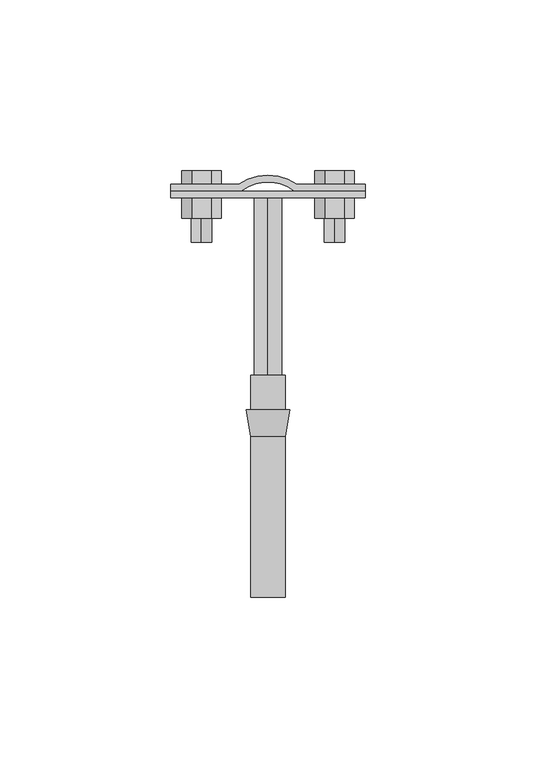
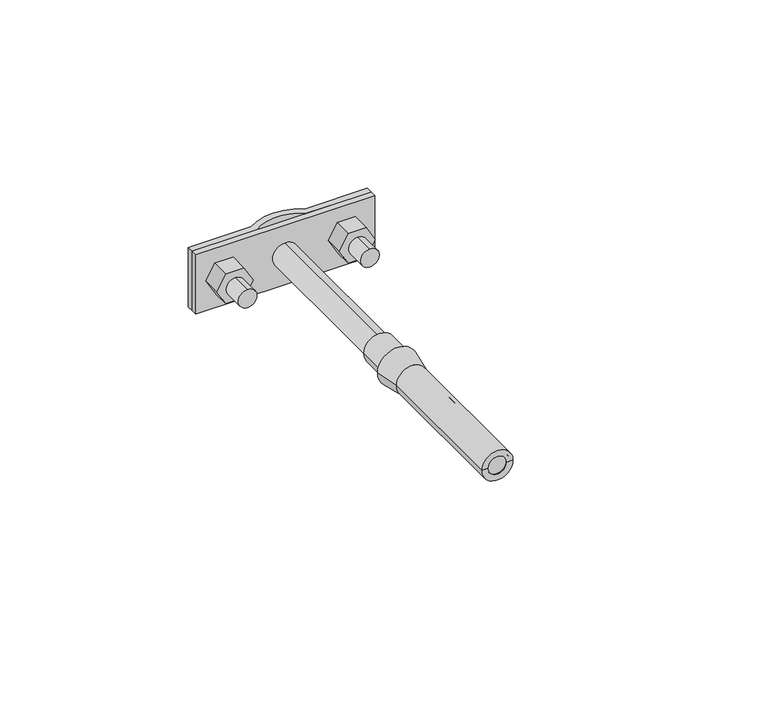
"""IFC4 building model written with IfcOpenShell, lengths in millimetres: proxy geometry, КНС_ДержательФасадный_DKC : ND2306_Горячеоцинкованная сталь_125 мм."""

from ifc_helpers import new_model, si_unit, point, frame, frame_2d, origin, origin_2d, place, context, project, spatial, polyline, circle_curve, trimmed, segment, composite_curve, outline, extrude, source, transform, mapped, element, save
from ifc_brep_helpers import plane_surface, cylinder_surface, revolved_surface, advanced_brep


def security_devices_a8bf1533(model_context):
    return source(origin(), model_context, "Body", "SolidModel", [
        advanced_brep(
        [(6.3810583, -10.0, 0.0), (-6.3810583, -10.0, 0.0), (-5.0, -10.0, 0.0), (5.0, -10.0, 0.0), (5.0, -17.8323707, 0.0), (-5.0, -17.8323707, 0.0), (5.0, -65.0, 0.0), (-5.0, -65.0, 0.0), (3.0, -65.0, 0.0), (-3.0, -65.0, 0.0), (3.0, 0.0, 0.0), (-3.0, 0.0, 0.0), (5.0, 0.0, 0.0), (-5.0, 0.0, 0.0)],
        [
            (0, 1, circle_curve(frame((0.0, -10.0, 0.0), z_axis=(0.0, 1.0, 0.0), x_axis=(-1.0, 0.0, 0.0)), 6.3810583)),
            (1, 2),
            (2, 3, circle_curve(frame((0.0, -10.0, 0.0), z_axis=(0.0, -1.0, 0.0), x_axis=(-1.0, 0.0, 0.0)), 5.0)),
            (3, 0),
            (1, 0, circle_curve(frame((0.0, -10.0, 0.0), z_axis=(0.0, 1.0, 0.0), x_axis=(-1.0, 0.0, 0.0)), 6.3810583)),
            (3, 2, circle_curve(frame((0.0, -10.0, 0.0), z_axis=(0.0, -1.0, 0.0), x_axis=(-1.0, 0.0, 0.0)), 5.0)),
            (4, 5, circle_curve(frame((0.0, -17.8323707, 0.0), z_axis=(0.0, 1.0, 0.0), x_axis=(-1.0, 0.0, 0.0)), 5.0)),
            (5, 1),
            (0, 4),
            (5, 4, circle_curve(frame((0.0, -17.8323707, 0.0), z_axis=(0.0, 1.0, 0.0), x_axis=(-1.0, 0.0, 0.0)), 5.0)),
            (6, 7, circle_curve(frame((0.0, -65.0, 0.0), z_axis=(0.0, 1.0, 0.0), x_axis=(-1.0, 0.0, 0.0)), 5.0)),
            (7, 5),
            (4, 6),
            (7, 6, circle_curve(frame((0.0, -65.0, 0.0), z_axis=(0.0, 1.0, 0.0), x_axis=(-1.0, 0.0, 0.0)), 5.0)),
            (8, 9, circle_curve(frame((0.0, -65.0, 0.0), z_axis=(0.0, 1.0, 0.0), x_axis=(-1.0, 0.0, 0.0)), 3.0)),
            (9, 7),
            (6, 8),
            (9, 8, circle_curve(frame((0.0, -65.0, 0.0), z_axis=(0.0, 1.0, 0.0), x_axis=(-1.0, 0.0, 0.0)), 3.0)),
            (10, 11, circle_curve(frame((0.0, 0.0, 0.0), z_axis=(0.0, 1.0, 0.0), x_axis=(-1.0, 0.0, 0.0)), 3.0)),
            (11, 9),
            (8, 10),
            (11, 10, circle_curve(frame((0.0, 0.0, 0.0), z_axis=(0.0, 1.0, 0.0), x_axis=(-1.0, 0.0, 0.0)), 3.0)),
            (12, 13, circle_curve(frame((0.0, 0.0, 0.0), z_axis=(0.0, 1.0, 0.0), x_axis=(-1.0, 0.0, 0.0)), 5.0)),
            (13, 11),
            (10, 12),
            (13, 12, circle_curve(frame((0.0, 0.0, 0.0), z_axis=(0.0, 1.0, 0.0), x_axis=(-1.0, 0.0, 0.0)), 5.0)),
            (2, 13),
            (12, 3),
        ],
        [
            plane_surface(frame((0.0, -10.0, 0.0), z_axis=(0.0, 1.0, 0.0), x_axis=(-1.0, 0.0, 0.0))),
            revolved_surface(polyline([(-6.3810583, -10.0, 0.0), (-5.0, -17.8323707, 0.0)]), (0.0, 2000.0, 0.0), (0.0, -1.0, 0.0)),
            cylinder_surface(frame((0.0, 2000.0, 0.0), z_axis=(0.0, -1.0, 0.0), x_axis=(-1.0, 0.0, 0.0)), 5.0),
            plane_surface(frame((0.0, -65.0, 0.0), z_axis=(0.0, -1.0, 0.0), x_axis=(-1.0, 0.0, 0.0))),
            revolved_surface(polyline([(-3.0, -65.0, 0.0), (-3.0, 0.0, 0.0)]), (0.0, 2000.0, 0.0), (0.0, -1.0, 0.0)),
            plane_surface(frame((0.0, 0.0, 0.0), z_axis=(0.0, 1.0, 0.0), x_axis=(-1.0, 0.0, 0.0))),
        ],
        [
            (0, [[1, 2, 3, 4]]),
            (0, [[5, -4, 6, -2]]),
            (1, [[7, 8, -1, 9]]),
            (1, [[10, -9, -5, -8]]),
            (2, [[11, 12, -7, 13]]),
            (2, [[14, -13, -10, -12]]),
            (3, [[15, 16, -11, 17]]),
            (3, [[18, -17, -14, -16]]),
            (4, [[19, 20, -15, 21]]),
            (4, [[22, -21, -18, -20]]),
            (5, [[23, 24, -19, 25]]),
            (5, [[26, -25, -22, -24]]),
            (2, [[-3, 27, -23, 28]]),
            (2, [[-6, -28, -26, -27]]),
        ],
    ),
        extrude(outline(polyline([(0.0, 25.2735027), (5.0, 22.3867513), (5.0, 16.6132487), (0.0, 13.7264973), (-5.0, 16.6132487), (-5.0, 22.3867513), (0.0, 25.2735027)])), frame((0.0, 46.0, 0.0), z_axis=(0.0, 1.0, 0.0), x_axis=(0.0, 0.0, 1.0)), (0.0, 0.0, 1.0), 6.0),
        extrude(outline(polyline([(0.0, -13.7264973), (5.0, -16.6132487), (5.0, -22.3867513), (0.0, -25.2735027), (-5.0, -22.3867513), (-5.0, -16.6132487), (0.0, -13.7264973)])), frame((0.0, 46.0, 0.0), z_axis=(0.0, 1.0, 0.0), x_axis=(0.0, 0.0, 1.0)), (0.0, 0.0, 1.0), 6.0),
        extrude(outline(composite_curve([segment(trimmed(circle_curve(frame_2d((0.0, 19.5)), 3.0), [point((-3.0, 19.5))], [point((3.0, 19.5))], False, "CARTESIAN"), True, "CONTINUOUS"), segment(trimmed(circle_curve(frame_2d((0.0, 19.5)), 3.0), [point((3.0, 19.5))], [point((-3.0, 19.5))], False, "CARTESIAN"), True, "CONTINUOUS")], self_intersect=False)), frame((0.0, 39.0, 0.0), z_axis=(0.0, 1.0, 0.0), x_axis=(0.0, 0.0, 1.0)), (0.0, 0.0, 1.0), 13.0),
        extrude(outline(polyline([(0.0, 25.2735027), (5.0, 22.3867513), (5.0, 16.6132487), (0.0, 13.7264973), (-5.0, 16.6132487), (-5.0, 22.3867513), (0.0, 25.2735027)])), frame((0.0, 56.0, 0.0), z_axis=(0.0, 1.0, 0.0), x_axis=(0.0, 0.0, 1.0)), (0.0, 0.0, 1.0), 4.0),
        extrude(outline(polyline([(0.0, -13.7264973), (5.0, -16.6132487), (5.0, -22.3867513), (0.0, -25.2735027), (-5.0, -22.3867513), (-5.0, -16.6132487), (0.0, -13.7264973)])), frame((0.0, 56.0, 0.0), z_axis=(0.0, 1.0, 0.0), x_axis=(0.0, 0.0, 1.0)), (0.0, 0.0, 1.0), 4.0),
        extrude(outline(composite_curve([segment(trimmed(circle_curve(frame_2d((0.0, -19.5)), 3.0), [point((-3.0, -19.5))], [point((3.0, -19.5))], False, "CARTESIAN"), True, "CONTINUOUS"), segment(trimmed(circle_curve(frame_2d((0.0, -19.5)), 3.0), [point((3.0, -19.5))], [point((-3.0, -19.5))], False, "CARTESIAN"), True, "CONTINUOUS")], self_intersect=False)), frame((0.0, 39.0, 0.0), z_axis=(0.0, 1.0, 0.0), x_axis=(0.0, 0.0, 1.0)), (0.0, 0.0, 1.0), 13.0),
        extrude(outline(composite_curve([segment(trimmed(circle_curve(origin_2d(), 4.0), [point((-4.0, 0.0))], [point((4.0, 0.0))], False, "CARTESIAN"), True, "CONTINUOUS"), segment(trimmed(circle_curve(origin_2d(), 4.0), [point((4.0, 0.0))], [point((-4.0, 0.0))], False, "CARTESIAN"), True, "CONTINUOUS")], self_intersect=False)), frame((0.0, -65.0, 0.0), z_axis=(0.0, 1.0, 0.0), x_axis=(0.0, 0.0, 1.0)), (0.0, 0.0, 1.0), 117.0),
        extrude(outline(polyline([(-28.5, 52.0), (-28.5, 54.0), (28.5, 54.0), (28.5, 52.0), (-28.5, 52.0)])), frame((0.0, 0.0, -10.0), z_axis=(0.0, 0.0, 1.0), x_axis=(1.0, 0.0, 0.0)), (0.0, 0.0, 1.0), 20.0),
        extrude(outline(composite_curve([segment(trimmed(circle_curve(frame_2d((0.0, 43.8700945)), 14.8116376), [point((-8.5, 56.0))], [point((8.5, 56.0))], False, "CARTESIAN"), True, "CONTINUOUS"), segment(polyline([(8.5, 56.0), (28.5, 56.0), (28.5, 54.0), (7.9035116, 54.0)]), True, "CONTINUOUS"), segment(trimmed(circle_curve(frame_2d((0.0, 43.3768959)), 13.2406887), [point((7.9035116, 54.0))], [point((-7.9035116, 54.0))], True, "CARTESIAN"), True, "CONTINUOUS"), segment(polyline([(-7.9035116, 54.0), (-28.5, 54.0), (-28.5, 56.0), (-8.5, 56.0)]), True, "CONTINUOUS")], self_intersect=False)), frame((0.0, 0.0, -10.0), z_axis=(0.0, 0.0, 1.0), x_axis=(1.0, 0.0, 0.0)), (0.0, 0.0, 1.0), 20.0),
    ])


if __name__ == "__main__":
    model = new_model("IFC4")
    model_context = context("Model", 3, world=origin())
    ifc_project = project(units=[si_unit("LENGTHUNIT", "METRE", prefix="MILLI")], contexts=[model_context])
    site = spatial("IfcSite", under=ifc_project)
    building = spatial("IfcBuilding", under=site)
    placement = place(None, origin())
    security_devices_shape = security_devices_a8bf1533(model_context)
    element("IfcBuildingElementProxy", 1, Name="КНС_ДержательФасадный_DKC : ND2306_Горячеоцинкованная сталь_125 мм", ObjectType="КНС_ДержательФасадный_DKC : ND2306_Горячеоцинкованная сталь_125 мм", at=placement, inside=building, context=model_context, shape_type="MappedRepresentation", body=[
        mapped(security_devices_shape, transform((0.0, 0.0, 0.0), x_axis=(1.0, 0.0, 0.0), y_axis=(0.0, 1.0, 0.0), z_axis=(0.0, 0.0, 1.0))),
    ])
    save(model, "model.ifc")
